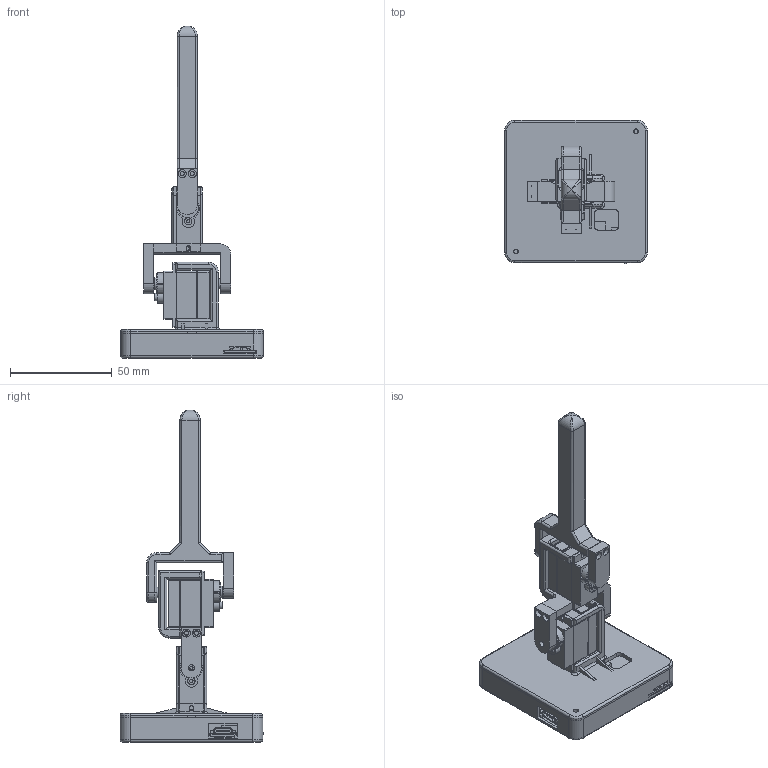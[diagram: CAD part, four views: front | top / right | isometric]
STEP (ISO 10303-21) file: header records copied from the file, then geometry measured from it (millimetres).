
FILE_DESCRIPTION(('Open CASCADE Model'),'2;1');
FILE_NAME('Open CASCADE Shape Model','2026-11-03T07:33:49',('Author'),( 'Open CASCADE'),'Open CASCADE STEP processor 7.9','Open CASCADE 7.9' ,'Unknown');
FILE_SCHEMA(('AUTOMOTIVE_DESIGN { 1 0 10303 214 1 1 1 1 }'));
Length unit declared in the file: millimetre
Products named in the file (13): under_base_pod_C2_review; base_modified; electronics_cup; battery; controller_board; pololu_2810_master_switch; existing_connectors_envelope; middle_link_servo_horn_bracket; upper_servo; top_link_servo_horn_bracket; top_link_main_body; lower_servo; middle_link_main_body
Assembly tree (12 placements, depth 2):
  under_base_pod_C2_review
    base_modified
    electronics_cup
    battery
    controller_board
    pololu_2810_master_switch
    existing_connectors_envelope
    middle_link_servo_horn_bracket
    upper_servo
    top_link_servo_horn_bracket
    top_link_main_body
    lower_servo
    middle_link_main_body
Bounding box: 70 x 70.59 x 163 mm (x, y, z)
Volume: 67658.5 mm3; surface area: 51455.5 mm2
Topology: 14 solids, 18 shells, 2637 faces, 7084 edges, 4581 vertices
Faces by surface type: plane 1835, cylinder 549, bspline 158, torus 52, sphere 22, cone 21
Full cylindrical faces by diameter (mm): 0.3 x1, 0.4 x2, 0.5 x2, 0.508 x1, 0.6 x2, 0.75 x16, 0.9 x2, 1.016 x14, 1.524 x4, 1.6 x4, 2 x12, 2.4 x2, 2.5 x2, 3 x1, 3.6 x2, 3.9 x4, 5 x3, 5.2 x2, 6 x2
Entity records: 185164 total; most frequent: CARTESIAN_POINT 44290, DIRECTION 25585, LINE 17633, VECTOR 17633, ORIENTED_EDGE 14116, PCURVE 14116, DEFINITIONAL_REPRESENTATION 14116, EDGE_CURVE 7058
